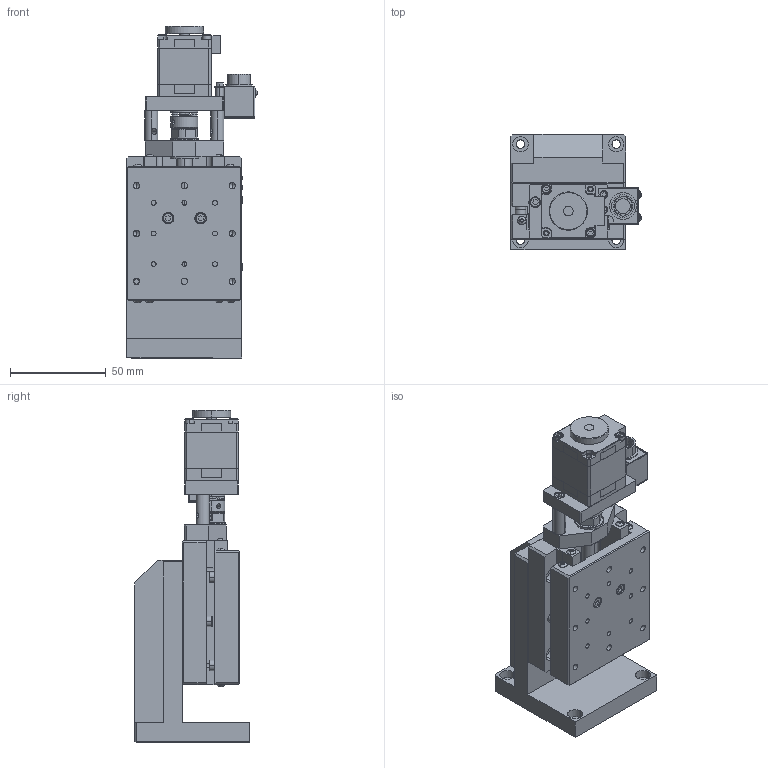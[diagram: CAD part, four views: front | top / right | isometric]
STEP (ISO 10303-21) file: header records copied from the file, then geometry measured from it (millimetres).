
FILE_DESCRIPTION (( 'STEP AP214' ), '1' );
FILE_NAME ('TZS6030B-L1-M28L.STEP', '2025-01-03T09:04:40', ( '' ), ( '' ), 'SwSTEP 2.0', 'SolidWorks 2020', '' );
FILE_SCHEMA (( 'AUTOMOTIVE_DESIGN' ));
Length unit declared in the file: millimetre
Products named in the file (3): TXS6030B-L1-M28L; TZS6030B-L1-M28L; D0201-001285 蛌諉啣60x60x96
Assembly tree (2 placements, depth 2):
  TZS6030B-L1-M28L
    D0201-001285 蛌諉啣60x60x96
    TXS6030B-L1-M28L
Bounding box: 67.98 x 60 x 173.3 mm (x, y, z)
Volume: 257392.3 mm3; surface area: 87708.2 mm2
Topology: 87 solids, 87 shells, 2067 faces, 5413 edges, 3467 vertices
Faces by surface type: plane 1003, cylinder 688, cone 184, torus 88, bspline 68, sphere 36
Entity records: 69994 total; most frequent: CARTESIAN_POINT 18081, DIRECTION 10677, ORIENTED_EDGE 10504, EDGE_CURVE 5252, AXIS2_PLACEMENT_3D 4005, VERTEX_POINT 3467, LINE 2667, VECTOR 2667
